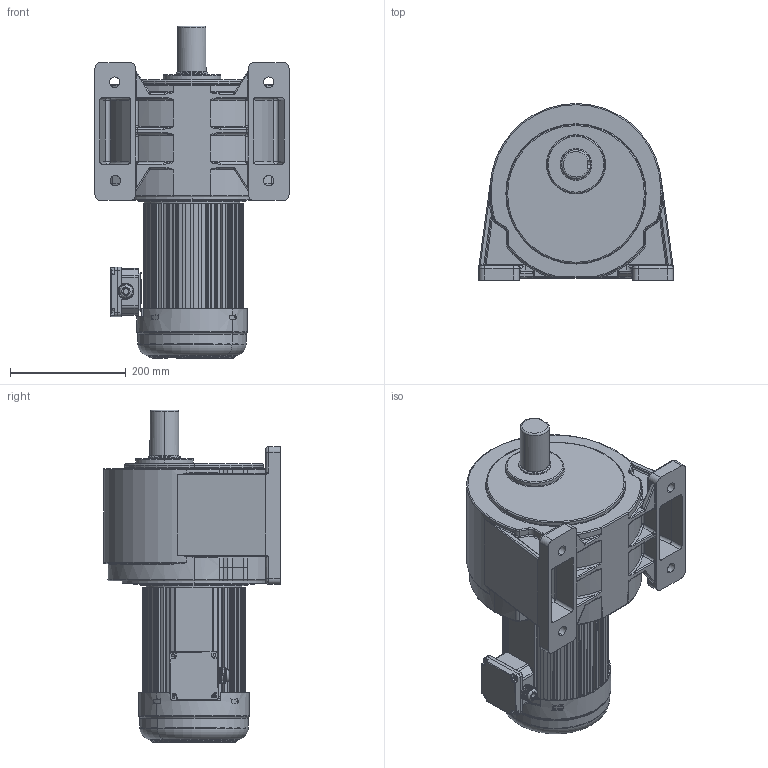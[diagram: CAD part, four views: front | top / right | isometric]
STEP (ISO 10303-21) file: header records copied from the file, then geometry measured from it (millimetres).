
FILE_DESCRIPTION (( 'STEP AP203' ), '1' );
FILE_NAME ('2200W饜6#拏宒.STEP', '2020-04-15T02:42:30', ( 'china' ), ( 'china' ), 'SwSTEP 2.0', 'SolidWorks 2019', '' );
FILE_SCHEMA (( 'CONFIG_CONTROL_DESIGN' ));
Products named in the file (8): 諉芛; 蜊輛綴諉盄碟裔3; 2200W儂褲; 1500W6#拏宒眊极; 1500W綴傷裔; 2200W饜6#拏宒; 瑞欶; 蜊輛綴諉盄碟釱3
Assembly tree (7 placements, depth 2):
  2200W饜6#拏宒
    1500W綴傷裔
    瑞欶
    蜊輛綴諉盄碟釱3
    諉芛
    蜊輛綴諉盄碟裔3
    2200W儂褲
    1500W6#拏宒眊极
Bounding box: 335 x 305 x 572.98 mm (x, y, z)
Volume: 16429599.2 mm3; surface area: 1210116.1 mm2
Topology: 7 solids, 11 shells, 3017 faces, 7982 edges, 5023 vertices
Faces by surface type: plane 1255, cylinder 1021, bspline 306, torus 268, cone 121, sphere 46
Entity records: 117732 total; most frequent: CARTESIAN_POINT 43005, ORIENTED_EDGE 15848, DIRECTION 14983, EDGE_CURVE 7924, AXIS2_PLACEMENT_3D 5253, VERTEX_POINT 5008, LINE 4477, VECTOR 4477
